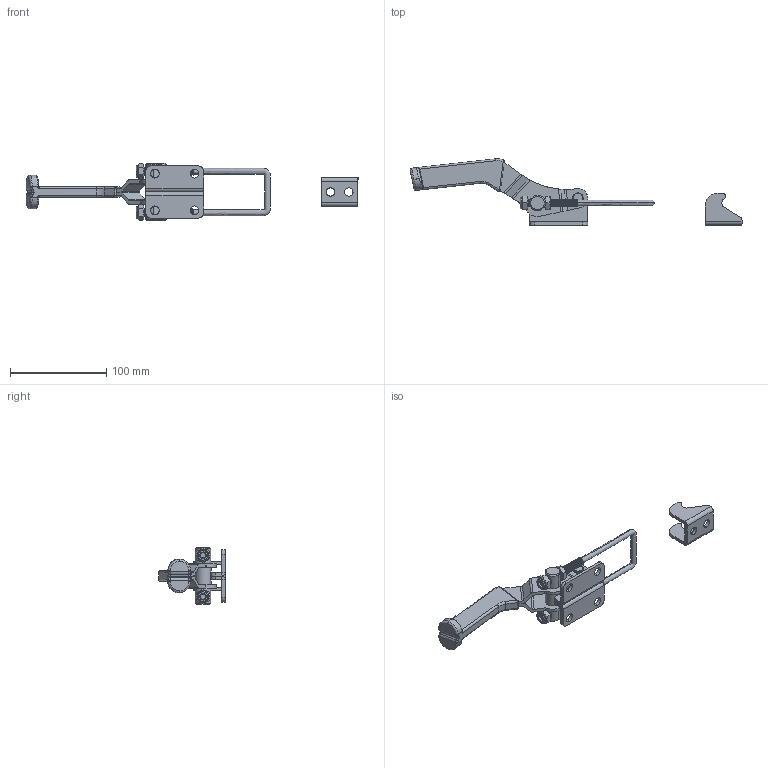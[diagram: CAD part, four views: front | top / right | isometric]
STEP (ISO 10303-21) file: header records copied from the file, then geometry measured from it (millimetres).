
FILE_DESCRIPTION (( 'STEP AP203' ), '1' );
FILE_NAME ('SK3-021-3.STEP', '2018-05-08T01:27:09', ( 'admin' ), ( 'Microsoft' ), 'SwSTEP 2.0', 'SolidWorks 2015', '' );
FILE_SCHEMA (( 'CONFIG_CONTROL_DESIGN' ));
Length unit declared in the file: millimetre
Products named in the file (12): SK3-021-3; SK3-021-3 蜇璃衵; SK3-021-3 蜇璃酘; SK3-021-3 蹟裝; SK3-021-3 ͷ; M8 1.25 SK1-107; SK3-021-3 种隊; SK3-021-3 菁釱酘; SK3-021-3 蜇璃 砎蝶; SK3-021-3 菁釱衵; M8 蹟簽2; SK3-021-3 蜇璃1
Assembly tree (13 placements, depth 2):
  SK3-021-3
    SK3-021-3 菁釱酘
    SK3-021-3 菁釱衵
    SK3-021-3 蜇璃1
    SK3-021-3 蜇璃衵
    SK3-021-3 蜇璃酘
    SK3-021-3 蹟裝
    SK3-021-3 ͷ
    M8 1.25 SK1-107  x2
    SK3-021-3 种隊
    SK3-021-3 蜇璃 砎蝶
    M8 蹟簽2  x2
Bounding box: 344.1 x 68.88 x 59.17 mm (x, y, z)
Volume: 94095.1 mm3; surface area: 68202.9 mm2
Topology: 13 solids, 13 shells, 588 faces, 1564 edges, 998 vertices
Faces by surface type: cylinder 334, plane 142, bspline 56, cone 36, torus 20
Entity records: 42194 total; most frequent: CARTESIAN_POINT 28690, ORIENTED_EDGE 2908, DIRECTION 2138, EDGE_CURVE 1454, VERTEX_POINT 930, AXIS2_PLACEMENT_3D 788, EDGE_LOOP 582, VECTOR 562
